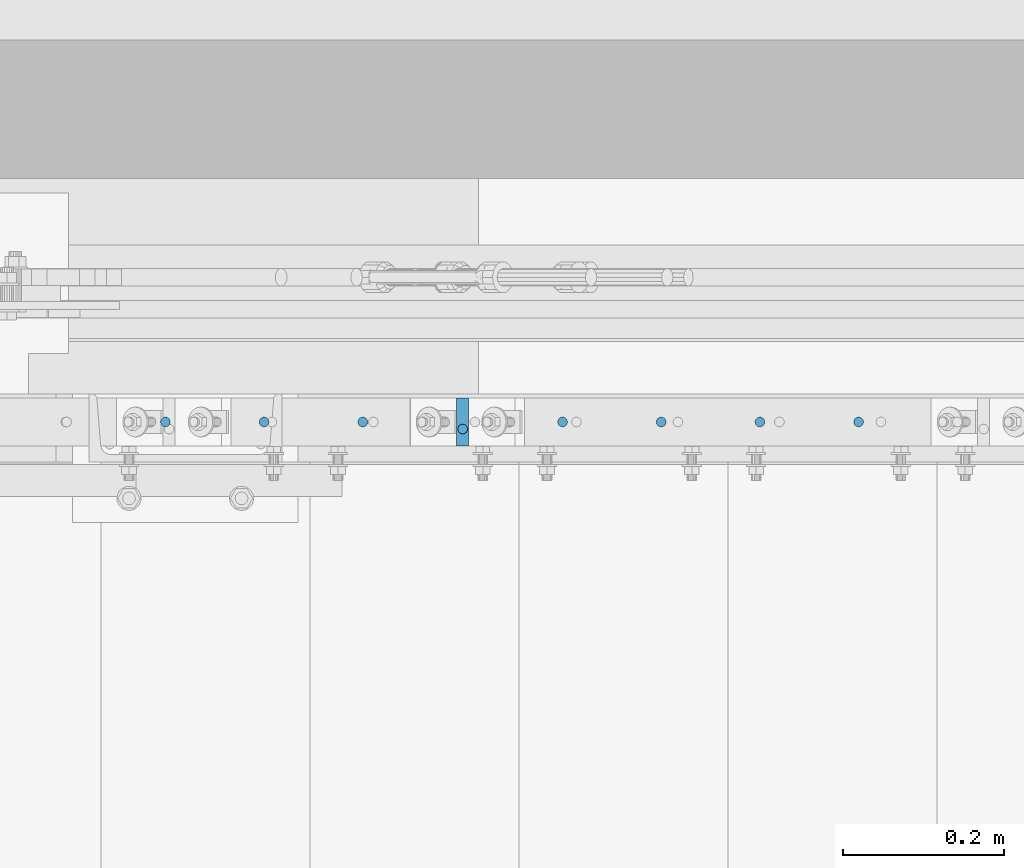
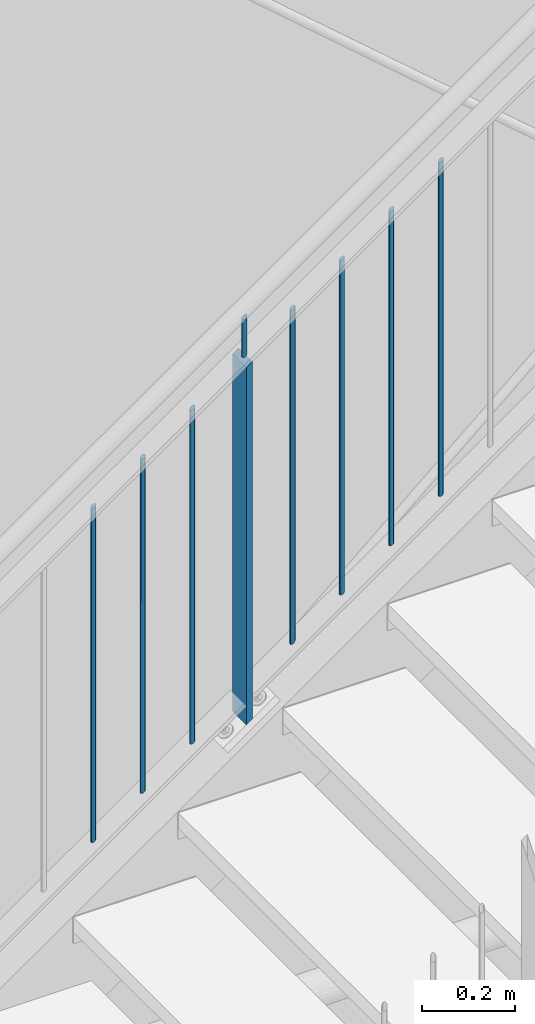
# One storey, part 74 of 825: 9 columns.
"""IFC2X3 building model written with IfcOpenShell, lengths in millimetres."""

from ifc_helpers import new_model, entity, si_unit, converted_unit, frame, origin, origin_with_axes, origin_2d, place, context, project, spatial, rectangle, circle, extrude, clip, halfspace, material, element, save


model = new_model("IFC2X3")

# Units and contexts
model_context = context("Model", 3, precision=1e-09, world=origin_with_axes())
ifc_project = project(units=[si_unit("LENGTHUNIT", "METRE", prefix="MILLI"), si_unit("AREAUNIT", "SQUARE_METRE"), si_unit("VOLUMEUNIT", "CUBIC_METRE"), converted_unit("PLANEANGLEUNIT", "DEGREE", entity("IfcPlaneAngleMeasure", 0.01745329), si_unit("PLANEANGLEUNIT", "RADIAN"), dimensions=[0, 0, 0, 0, 0, 0, 0])], contexts=[model_context])

# Site, building, storey
site_placement = place(None, origin_with_axes())
site = spatial("IfcSite", under=ifc_project, at=site_placement, Name="Cnopf'sche Kinderklinik", CompositionType="ELEMENT")
building_placement = place(site_placement, origin_with_axes())
building = spatial("IfcBuilding", under=site, at=building_placement, Name="Struktur 1", CompositionType="ELEMENT")
storey_placement = place(building_placement, origin_with_axes())
storey = spatial("IfcBuildingStorey", under=building, at=storey_placement, Name="Default Storey", CompositionType="ELEMENT", Elevation=0.0)

# Columns
ifc_material = material(Name="S235JR")
column_1_placement = place(None, frame((5686.71354585, 7356.736971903, 5385.817723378), z_axis=(0.0, 0.0, 1.0), x_axis=(1.0, 0.0, 0.0)))
element("IfcColumn", 1, at=column_1_placement, inside=storey, material=ifc_material, Name="Railing_Post_Stair#1", ObjectType="Railing_Post_Stair#1", context=model_context, shape_type="Clipping", body=[
    clip(clip(extrude(rectangle(XDim=15.0, YDim=60.0, at=origin_2d()), origin(), (0.0, 0.0, -1.0), 1013.014378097), halfspace(frame((-5880.856299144, -7356.736971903, -5109.668802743), z_axis=(-0.575128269, 0.0, 0.818063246), x_axis=(0.0, -1.0, 0.0)), True)), halfspace(frame((-6321.899880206, -7356.736971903, -4482.327803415), z_axis=(0.575128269, 0.0, -0.818063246), x_axis=(0.0, 1.0, 0.0)), True)),
])
column_2_placement = place(None, frame((5316.963498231, 7356.736971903, 5098.441756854), z_axis=(0.0, 0.0, 1.0), x_axis=(1.0, 0.0, 0.0)))
element("IfcColumn", 2, at=column_2_placement, inside=storey, material=ifc_material, Name="Railing_Picket_Stair#4", ObjectType="Railing_Picket_Stair#4", context=model_context, shape_type="Clipping", body=[
    clip(clip(extrude(circle(Radius=6.0, at=origin_2d()), origin(), (0.0, 0.0, -1.0), 897.037988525), halfspace(frame((-5539.862665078, -7356.736971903, -4781.389673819), z_axis=(-0.575128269, 0.0, 0.818063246), x_axis=(0.0, -1.0, 0.0)), True)), halfspace(frame((-5952.149832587, -7356.736971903, -4194.951836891), z_axis=(0.575128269, 0.0, -0.818063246), x_axis=(0.0, 1.0, 0.0)), True)),
])
column_3_placement = place(None, frame((5439.713522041, 7356.736971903, 5184.739496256), z_axis=(0.0, 0.0, 1.0), x_axis=(1.0, 0.0, 0.0)))
element("IfcColumn", 3, at=column_3_placement, inside=storey, material=ifc_material, Name="Railing_Picket_Stair#5", ObjectType="Railing_Picket_Stair#5", context=model_context, shape_type="Clipping", body=[
    clip(clip(extrude(circle(Radius=6.0, at=origin_2d()), origin(), (0.0, 0.0, -1.0), 897.037988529), halfspace(frame((-5662.612688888, -7356.736971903, -4867.687413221), z_axis=(-0.575128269, 0.0, 0.818063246), x_axis=(0.0, -1.0, 0.0)), True)), halfspace(frame((-6074.899856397, -7356.736971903, -4281.249576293), z_axis=(0.575128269, 0.0, -0.818063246), x_axis=(0.0, 1.0, 0.0)), True)),
])
column_4_placement = place(None, frame((5562.46354585, 7356.736971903, 5271.037235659), z_axis=(0.0, 0.0, 1.0), x_axis=(1.0, 0.0, 0.0)))
element("IfcColumn", 4, at=column_4_placement, inside=storey, material=ifc_material, Name="Railing_Picket_Stair#6", ObjectType="Railing_Picket_Stair#6", context=model_context, shape_type="Clipping", body=[
    clip(clip(extrude(circle(Radius=6.0, at=origin_2d()), origin(), (0.0, 0.0, -1.0), 897.037988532), halfspace(frame((-5785.362712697, -7356.736971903, -4953.985152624), z_axis=(-0.575128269, 0.0, 0.818063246), x_axis=(0.0, -1.0, 0.0)), True)), halfspace(frame((-6197.649880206, -7356.736971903, -4367.547315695), z_axis=(0.575128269, 0.0, -0.818063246), x_axis=(0.0, 1.0, 0.0)), True)),
])
column_5_placement = place(None, frame((5810.96354585, 7356.736971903, 5445.741790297), z_axis=(0.0, 0.0, 1.0), x_axis=(1.0, 0.0, 0.0)))
element("IfcColumn", 5, at=column_5_placement, inside=storey, material=ifc_material, Name="Railing_Picket_Stair#7", ObjectType="Railing_Picket_Stair#7", context=model_context, shape_type="Clipping", body=[
    clip(clip(extrude(circle(Radius=6.0, at=origin_2d()), origin(), (0.0, 0.0, -1.0), 897.03798854), halfspace(frame((-6033.862712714, -7356.736971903, -5128.689707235), z_axis=(-0.575128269, 0.0, 0.818063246), x_axis=(0.0, -1.0, 0.0)), True)), halfspace(frame((-6446.149880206, -7356.736971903, -4542.251870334), z_axis=(0.575128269, 0.0, -0.818063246), x_axis=(0.0, 1.0, 0.0)), True)),
])
column_6_placement = place(None, frame((5933.71356966, 7356.736971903, 5532.039529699), z_axis=(0.0, 0.0, 1.0), x_axis=(1.0, 0.0, 0.0)))
element("IfcColumn", 6, at=column_6_placement, inside=storey, material=ifc_material, Name="Railing_Picket_Stair#8", ObjectType="Railing_Picket_Stair#8", context=model_context, shape_type="Clipping", body=[
    clip(clip(extrude(circle(Radius=6.0, at=origin_2d()), origin(), (0.0, 0.0, -1.0), 897.037988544), halfspace(frame((-6156.612736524, -7356.736971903, -5214.987446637), z_axis=(-0.575128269, 0.0, 0.818063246), x_axis=(0.0, -1.0, 0.0)), True)), halfspace(frame((-6568.899904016, -7356.736971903, -4628.549609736), z_axis=(0.575128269, 0.0, -0.818063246), x_axis=(0.0, 1.0, 0.0)), True)),
])
column_7_placement = place(None, frame((6056.463593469, 7356.736971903, 5618.337269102), z_axis=(0.0, 0.0, 1.0), x_axis=(1.0, 0.0, 0.0)))
element("IfcColumn", 7, at=column_7_placement, inside=storey, material=ifc_material, Name="Railing_Picket_Stair#9", ObjectType="Railing_Picket_Stair#9", context=model_context, shape_type="Clipping", body=[
    clip(clip(extrude(circle(Radius=6.0, at=origin_2d()), origin(), (0.0, 0.0, -1.0), 897.037988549), halfspace(frame((-6279.362760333, -7356.736971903, -5301.285186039), z_axis=(-0.575128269, 0.0, 0.818063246), x_axis=(0.0, -1.0, 0.0)), True)), halfspace(frame((-6691.649927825, -7356.736971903, -4714.847349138), z_axis=(0.575128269, 0.0, -0.818063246), x_axis=(0.0, 1.0, 0.0)), True)),
])
column_8_placement = place(None, frame((6179.213617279, 7356.736971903, 5704.635008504), z_axis=(0.0, 0.0, 1.0), x_axis=(1.0, 0.0, 0.0)))
element("IfcColumn", 8, at=column_8_placement, inside=storey, material=ifc_material, Name="Railing_Picket_Stair#10", ObjectType="Railing_Picket_Stair#10", context=model_context, shape_type="Clipping", body=[
    clip(clip(extrude(circle(Radius=6.0, at=origin_2d()), origin(), (0.0, 0.0, -1.0), 897.037988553), halfspace(frame((-6402.112784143, -7356.736971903, -5387.582925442), z_axis=(-0.575128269, 0.0, 0.818063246), x_axis=(0.0, -1.0, 0.0)), True)), halfspace(frame((-6814.399951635, -7356.736971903, -4801.145088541), z_axis=(0.575128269, 0.0, -0.818063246), x_axis=(0.0, 1.0, 0.0)), True)),
])
column_9_placement = place(None, frame((5686.71354585, 7347.936971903, 5470.613506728), z_axis=(0.0, 0.0, 1.0), x_axis=(0.0, -1.0, 0.0)))
element("IfcColumn", 9, at=column_9_placement, inside=storey, material=ifc_material, Name="Bar#1", ObjectType="Bar#1", context=model_context, shape_type="Clipping", body=[
    clip(clip(extrude(circle(Radius=6.0, at=origin_2d()), origin(), (0.0, 0.0, -1.0), 120.744805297), halfspace(frame((7347.936971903, -6327.652313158, -4558.941318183), z_axis=(0.0, -0.575128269, 0.818063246), x_axis=(1.0, 0.0, 0.0)), True)), halfspace(frame((7347.936971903, -6374.700292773, -4492.020206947), z_axis=(0.0, 0.575128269, -0.818063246), x_axis=(-1.0, 0.0, 0.0)), True)),
])

save(model, "model.ifc")
